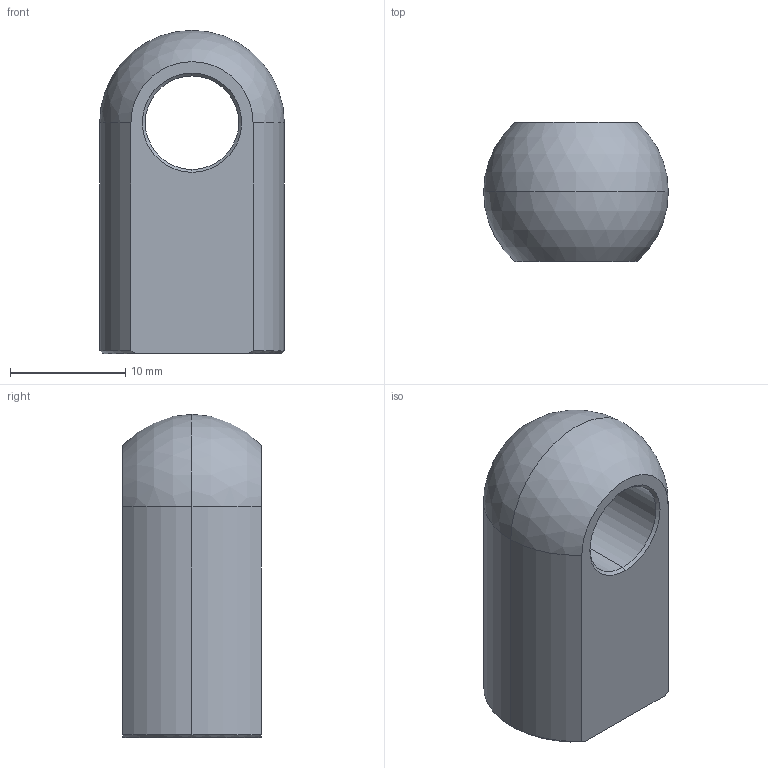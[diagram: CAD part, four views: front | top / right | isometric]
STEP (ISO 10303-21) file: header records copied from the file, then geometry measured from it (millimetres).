
FILE_DESCRIPTION (( 'STEP AP214' ), '1' );
FILE_NAME ('18.09N2AD20.STEP', '2017-11-09T09:25:49', ( '' ), ( '' ), 'SwSTEP 2.0', 'SolidWorks 2016', '' );
FILE_SCHEMA (( 'AUTOMOTIVE_DESIGN' ));
Length unit declared in the file: millimetre
Products named in the file (1): 18.09N2AD20
Bounding box: 16 x 12 x 28 mm (x, y, z)
Volume: 3067.6 mm3; surface area: 2041 mm2
Topology: 1 solids, 1 shells, 23 faces, 55 edges, 33 vertices
Faces by surface type: cone 11, cylinder 7, plane 3, sphere 2
Entity records: 702 total; most frequent: DIRECTION 126, CARTESIAN_POINT 122, ORIENTED_EDGE 106, AXIS2_PLACEMENT_3D 53, EDGE_CURVE 53, VERTEX_POINT 33, CIRCLE 29, EDGE_LOOP 26
